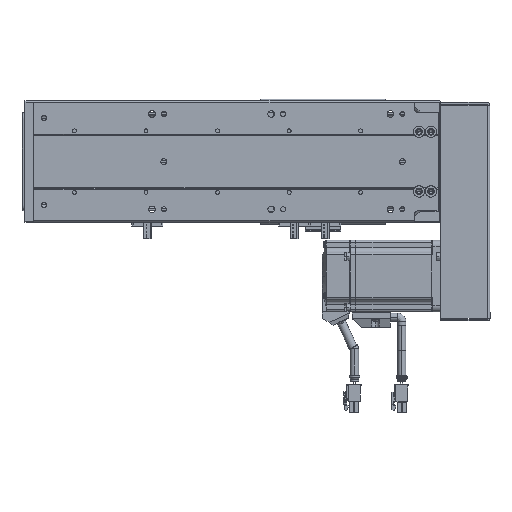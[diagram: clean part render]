
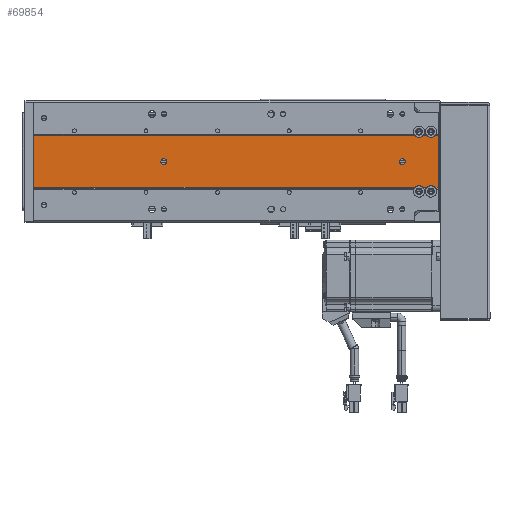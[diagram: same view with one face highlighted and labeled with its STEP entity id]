
A CAD part, front view. The second image highlights one B-rep face of the part: STEP entity #69854.
In plain terms, the highlighted planar face has unit normal (0, -1, 0).
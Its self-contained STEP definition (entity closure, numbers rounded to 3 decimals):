
#5493 = EDGE_LOOP ( 'NONE', ( #78707, #78703 ) ) ;
#5558 = EDGE_LOOP ( 'NONE', ( #78630, #78609 ) ) ;
#5589 = EDGE_LOOP ( 'NONE', ( #78672, #78635, #78649, #78551, #78680, #78670, #78697, #78724, #78683, #78638, #78745, #78668 ) ) ;
#7640 = DIRECTION ( 'NONE',  ( 0., 1., 0. ) ) ;
#7647 = DIRECTION ( 'NONE',  ( -1., 0., 0. ) ) ;
#7659 = CARTESIAN_POINT ( 'NONE',  ( 165.403, 89.548, 333. ) ) ;
#13011 = CARTESIAN_POINT ( 'NONE',  ( 140.403, 89.548, 309. ) ) ;
#13026 = DIRECTION ( 'NONE',  ( 1., 0., 0. ) ) ;
#13028 = DIRECTION ( 'NONE',  ( 0., -1., 0. ) ) ;
#13398 = CARTESIAN_POINT ( 'NONE',  ( 140.403, 89.548, 109. ) ) ;
#13401 = DIRECTION ( 'NONE',  ( 0., -1., 0. ) ) ;
#13422 = DIRECTION ( 'NONE',  ( 1., 0., 0. ) ) ;
#13882 = CIRCLE ( 'NONE', #96213, 2.5 ) ;
#13917 = CIRCLE ( 'NONE', #96241, 2.5 ) ;
#18944 = EDGE_CURVE ( 'NONE', #41413, #41620, #39827, .T. ) ;
#18966 = EDGE_CURVE ( 'NONE', #43769, #41483, #40037, .T. ) ;
#18991 = EDGE_CURVE ( 'NONE', #41222, #43757, #40001, .T. ) ;
#19051 = EDGE_CURVE ( 'NONE', #41595, #41683, #40348, .T. ) ;
#19055 = EDGE_CURVE ( 'NONE', #41672, #41663, #40274, .T. ) ;
#19441 = EDGE_CURVE ( 'NONE', #41385, #41383, #27891, .T. ) ;
#19449 = EDGE_CURVE ( 'NONE', #41346, #41367, #27886, .T. ) ;
#19454 = EDGE_CURVE ( 'NONE', #41663, #41413, #27889, .T. ) ;
#19460 = EDGE_CURVE ( 'NONE', #41683, #43780, #27917, .T. ) ;
#19468 = EDGE_CURVE ( 'NONE', #41837, #41672, #27983, .T. ) ;
#19485 = EDGE_CURVE ( 'NONE', #41595, #41837, #27978, .T. ) ;
#19511 = EDGE_CURVE ( 'NONE', #41620, #41483, #28023, .T. ) ;
#26027 = DIRECTION ( 'NONE',  ( 0., -1., 0. ) ) ;
#26046 = DIRECTION ( 'NONE',  ( 1., 0., 0. ) ) ;
#26055 = DIRECTION ( 'NONE',  ( 1., 0., 0. ) ) ;
#26057 = CARTESIAN_POINT ( 'NONE',  ( 115.403, 89.548, 323. ) ) ;
#26062 = CARTESIAN_POINT ( 'NONE',  ( 140.403, 89.548, 309. ) ) ;
#26064 = CARTESIAN_POINT ( 'NONE',  ( 140.403, 89.548, 109. ) ) ;
#26066 = DIRECTION ( 'NONE',  ( 0., -1., 0. ) ) ;
#26068 = DIRECTION ( 'NONE',  ( -1., 0., 0. ) ) ;
#26095 = DIRECTION ( 'NONE',  ( 0., 0., -1. ) ) ;
#26097 = CARTESIAN_POINT ( 'NONE',  ( 115.403, 89.548, 333. ) ) ;
#26103 = CARTESIAN_POINT ( 'NONE',  ( 161.989, 89.548, 339. ) ) ;
#26120 = DIRECTION ( 'NONE',  ( 0., 1., 0. ) ) ;
#26121 = DIRECTION ( 'NONE',  ( -1., 0., 0. ) ) ;
#26128 = DIRECTION ( 'NONE',  ( 0., 1., 0. ) ) ;
#26165 = DIRECTION ( 'NONE',  ( 0., 0., -1. ) ) ;
#26175 = CARTESIAN_POINT ( 'NONE',  ( 118.817, 89.548, 339. ) ) ;
#26247 = DIRECTION ( 'NONE',  ( 1., 0., 0. ) ) ;
#26260 = CARTESIAN_POINT ( 'NONE',  ( 161.989, 89.548, 0. ) ) ;
#27886 = CIRCLE ( 'NONE', #95416, 2.5 ) ;
#27889 = CIRCLE ( 'NONE', #95400, 4.75 ) ;
#27891 = CIRCLE ( 'NONE', #95426, 2.5 ) ;
#27910 = VECTOR ( 'NONE', #26095, 1000. ) ;
#27917 = LINE ( 'NONE', #26103, #27910 ) ;
#27959 = VECTOR ( 'NONE', #26165, 1000. ) ;
#27978 = LINE ( 'NONE', #26175, #27959 ) ;
#27983 = CIRCLE ( 'NONE', #95425, 4.75 ) ;
#28023 = LINE ( 'NONE', #26260, #28028 ) ;
#28028 = VECTOR ( 'NONE', #26247, 1000. ) ;
#32059 = EDGE_CURVE ( 'NONE', #41367, #41346, #13882, .T. ) ;
#32104 = EDGE_CURVE ( 'NONE', #41383, #41385, #13917, .T. ) ;
#33742 = EDGE_CURVE ( 'NONE', #43769, #43757, #81682, .T. ) ;
#33845 = EDGE_CURVE ( 'NONE', #41222, #43780, #81748, .T. ) ;
#34375 = DIRECTION ( 'NONE',  ( 0., 0., -1. ) ) ;
#34429 = CARTESIAN_POINT ( 'NONE',  ( 118.817, 89.548, 339. ) ) ;
#34498 = CARTESIAN_POINT ( 'NONE',  ( 161.989, 89.548, 339. ) ) ;
#34499 = DIRECTION ( 'NONE',  ( 0., 0., -1. ) ) ;
#34552 = CARTESIAN_POINT ( 'NONE',  ( 161.989, 89.548, 339. ) ) ;
#34587 = DIRECTION ( 'NONE',  ( 0., 0., -1. ) ) ;
#34724 = CARTESIAN_POINT ( 'NONE',  ( 161.989, 89.548, 339. ) ) ;
#34762 = CARTESIAN_POINT ( 'NONE',  ( 118.817, 89.548, 339. ) ) ;
#34763 = DIRECTION ( 'NONE',  ( 0., 0., -1. ) ) ;
#34770 = DIRECTION ( 'NONE',  ( 1., 0., 0. ) ) ;
#39827 = LINE ( 'NONE', #34429, #39829 ) ;
#39829 = VECTOR ( 'NONE', #34375, 1000. ) ;
#39935 = VECTOR ( 'NONE', #34499, 1000. ) ;
#40001 = LINE ( 'NONE', #34552, #40039 ) ;
#40037 = LINE ( 'NONE', #34498, #39935 ) ;
#40039 = VECTOR ( 'NONE', #34587, 1000. ) ;
#40274 = LINE ( 'NONE', #34762, #40292 ) ;
#40292 = VECTOR ( 'NONE', #34763, 1000. ) ;
#40348 = LINE ( 'NONE', #34724, #40368 ) ;
#40368 = VECTOR ( 'NONE', #34770, 1000. ) ;
#41222 = VERTEX_POINT ( 'NONE', #96917 ) ;
#41346 = VERTEX_POINT ( 'NONE', #96904 ) ;
#41367 = VERTEX_POINT ( 'NONE', #96931 ) ;
#41383 = VERTEX_POINT ( 'NONE', #96926 ) ;
#41385 = VERTEX_POINT ( 'NONE', #96928 ) ;
#41413 = VERTEX_POINT ( 'NONE', #96935 ) ;
#41483 = VERTEX_POINT ( 'NONE', #97036 ) ;
#41595 = VERTEX_POINT ( 'NONE', #97066 ) ;
#41620 = VERTEX_POINT ( 'NONE', #97062 ) ;
#41663 = VERTEX_POINT ( 'NONE', #97082 ) ;
#41672 = VERTEX_POINT ( 'NONE', #97108 ) ;
#41683 = VERTEX_POINT ( 'NONE', #97107 ) ;
#41837 = VERTEX_POINT ( 'NONE', #97252 ) ;
#43757 = VERTEX_POINT ( 'NONE', #60025 ) ;
#43769 = VERTEX_POINT ( 'NONE', #60087 ) ;
#43780 = VERTEX_POINT ( 'NONE', #60133 ) ;
#44715 = DIRECTION ( 'NONE',  ( -1., 0., 0. ) ) ;
#44727 = DIRECTION ( 'NONE',  ( 0., 1., 0. ) ) ;
#44743 = CARTESIAN_POINT ( 'NONE',  ( 165.403, 89.548, 323. ) ) ;
#57322 = AXIS2_PLACEMENT_3D ( 'NONE', #82700, #82718, #82719 ) ;
#60025 = CARTESIAN_POINT ( 'NONE',  ( 161.989, 89.548, 326.302 ) ) ;
#60087 = CARTESIAN_POINT ( 'NONE',  ( 161.989, 89.548, 319.698 ) ) ;
#60133 = CARTESIAN_POINT ( 'NONE',  ( 161.989, 89.548, 336.302 ) ) ;
#69854 = ADVANCED_FACE ( 'NONE', ( #87182, #87184, #87128 ), #82687, .F. ) ;
#78551 = ORIENTED_EDGE ( 'NONE', *, *, #19051, .F. ) ;
#78609 = ORIENTED_EDGE ( 'NONE', *, *, #32104, .F. ) ;
#78630 = ORIENTED_EDGE ( 'NONE', *, *, #19441, .F. ) ;
#78635 = ORIENTED_EDGE ( 'NONE', *, *, #33845, .T. ) ;
#78638 = ORIENTED_EDGE ( 'NONE', *, *, #19511, .T. ) ;
#78649 = ORIENTED_EDGE ( 'NONE', *, *, #19460, .F. ) ;
#78668 = ORIENTED_EDGE ( 'NONE', *, *, #33742, .T. ) ;
#78670 = ORIENTED_EDGE ( 'NONE', *, *, #19468, .T. ) ;
#78672 = ORIENTED_EDGE ( 'NONE', *, *, #18991, .F. ) ;
#78680 = ORIENTED_EDGE ( 'NONE', *, *, #19485, .T. ) ;
#78683 = ORIENTED_EDGE ( 'NONE', *, *, #18944, .T. ) ;
#78697 = ORIENTED_EDGE ( 'NONE', *, *, #19055, .T. ) ;
#78703 = ORIENTED_EDGE ( 'NONE', *, *, #32059, .F. ) ;
#78707 = ORIENTED_EDGE ( 'NONE', *, *, #19449, .F. ) ;
#78724 = ORIENTED_EDGE ( 'NONE', *, *, #19454, .T. ) ;
#78745 = ORIENTED_EDGE ( 'NONE', *, *, #18966, .F. ) ;
#81682 = CIRCLE ( 'NONE', #96666, 4.75 ) ;
#81748 = CIRCLE ( 'NONE', #94211, 4.75 ) ;
#82687 = PLANE ( 'NONE',  #57322 ) ;
#82700 = CARTESIAN_POINT ( 'NONE',  ( 161.989, 89.548, 339. ) ) ;
#82718 = DIRECTION ( 'NONE',  ( 0., 1., 0. ) ) ;
#82719 = DIRECTION ( 'NONE',  ( -1., 0., 0. ) ) ;
#87128 = FACE_OUTER_BOUND ( 'NONE', #5589, .T. ) ;
#87182 = FACE_BOUND ( 'NONE', #5558, .T. ) ;
#87184 = FACE_BOUND ( 'NONE', #5493, .T. ) ;
#94211 = AXIS2_PLACEMENT_3D ( 'NONE', #7659, #7640, #7647 ) ;
#95400 = AXIS2_PLACEMENT_3D ( 'NONE', #26057, #26128, #26068 ) ;
#95416 = AXIS2_PLACEMENT_3D ( 'NONE', #26064, #26027, #26055 ) ;
#95425 = AXIS2_PLACEMENT_3D ( 'NONE', #26097, #26120, #26121 ) ;
#95426 = AXIS2_PLACEMENT_3D ( 'NONE', #26062, #26066, #26046 ) ;
#96213 = AXIS2_PLACEMENT_3D ( 'NONE', #13398, #13401, #13422 ) ;
#96241 = AXIS2_PLACEMENT_3D ( 'NONE', #13011, #13028, #13026 ) ;
#96666 = AXIS2_PLACEMENT_3D ( 'NONE', #44743, #44727, #44715 ) ;
#96904 = CARTESIAN_POINT ( 'NONE',  ( 142.903, 89.548, 109. ) ) ;
#96917 = CARTESIAN_POINT ( 'NONE',  ( 161.989, 89.548, 329.698 ) ) ;
#96926 = CARTESIAN_POINT ( 'NONE',  ( 137.903, 89.548, 309. ) ) ;
#96928 = CARTESIAN_POINT ( 'NONE',  ( 142.903, 89.548, 309. ) ) ;
#96931 = CARTESIAN_POINT ( 'NONE',  ( 137.903, 89.548, 109. ) ) ;
#96935 = CARTESIAN_POINT ( 'NONE',  ( 118.817, 89.548, 319.698 ) ) ;
#97036 = CARTESIAN_POINT ( 'NONE',  ( 161.989, 89.548, 0. ) ) ;
#97062 = CARTESIAN_POINT ( 'NONE',  ( 118.817, 89.548, 0. ) ) ;
#97066 = CARTESIAN_POINT ( 'NONE',  ( 118.817, 89.548, 339. ) ) ;
#97082 = CARTESIAN_POINT ( 'NONE',  ( 118.817, 89.548, 326.302 ) ) ;
#97107 = CARTESIAN_POINT ( 'NONE',  ( 161.989, 89.548, 339. ) ) ;
#97108 = CARTESIAN_POINT ( 'NONE',  ( 118.817, 89.548, 329.698 ) ) ;
#97252 = CARTESIAN_POINT ( 'NONE',  ( 118.817, 89.548, 336.302 ) ) ;
